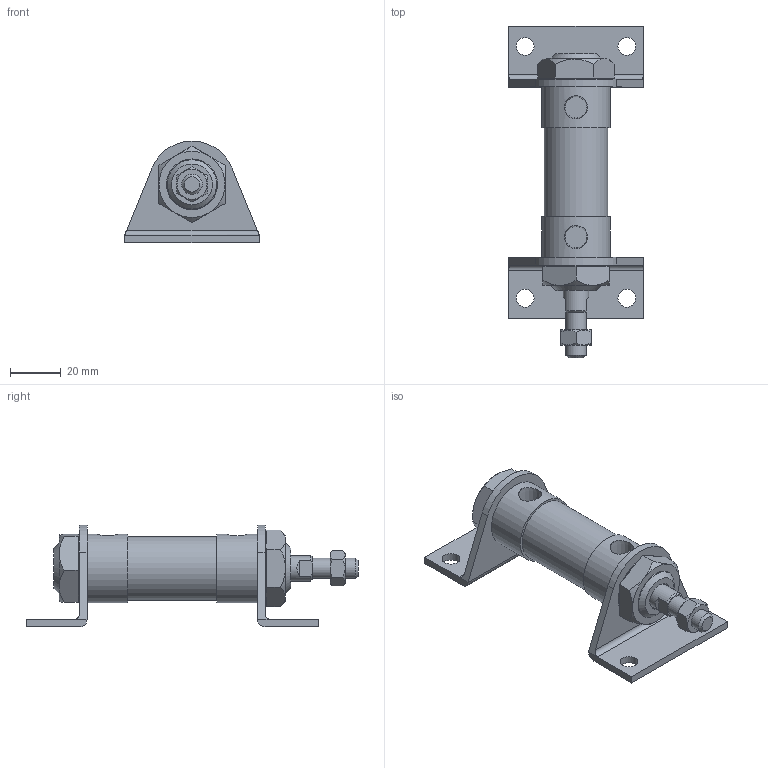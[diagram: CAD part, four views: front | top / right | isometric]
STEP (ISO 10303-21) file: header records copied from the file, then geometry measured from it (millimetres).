
FILE_DESCRIPTION(/* description */ ('Unknown'),/* implementation_level */ '2;1');
FILE_NAME(/* name */ 'WK20-LB',/* time_stamp */ '2026-07-17T16:28:45+08:00',/* author */ ('Unknown'),/* organization */ ('Unknown'),/* preprocessor_version */ 'ST-DEVELOPER v16.7',/* originating_system */ 'DEX',/* authorisation */ $);
FILE_SCHEMA (('CONFIG_CONTROL_DESIGN'));
Length unit declared in the file: millimetre
Products named in the file (8): WK20-LB; WK20_前; WK20_鋁; WK20_岃搵; WK20_¤ß¶b¬¡ò; M20-1.5P-8_Á³Traditional)_Taiwan.950; WK20_LB; M8-1.25P-6_螺
Assembly tree (9 placements, depth 2):
  WK20-LB
    WK20_前
    WK20_鋁
    WK20_岃搵
    WK20_¤ß¶b¬¡ò
    M20-1.5P-8_Á³Traditional)_Taiwan.950  x2
    WK20_LB  x2
    M8-1.25P-6_螺
Bounding box: 53 x 130.5 x 40 mm (x, y, z)
Volume: 63799.7 mm3; surface area: 32534.3 mm2
Topology: 9 solids, 9 shells, 134 faces, 288 edges, 179 vertices
Faces by surface type: plane 75, cone 30, cylinder 29
Full cylindrical faces by diameter (mm): 6.8 x1, 7 x4, 8 x1, 10 x2, 18.376 x2, 19.5 x1, 20 x5, 22 x2, 25 x1, 26 x2, 27 x2
Entity records: 3121 total; most frequent: CARTESIAN_POINT 539, DIRECTION 410, ORIENTED_EDGE 314, AXIS2_PLACEMENT_3D 178, EDGE_CURVE 157, EDGE_LOOP 148, FACE_BOUND 148, VERTEX_POINT 115
